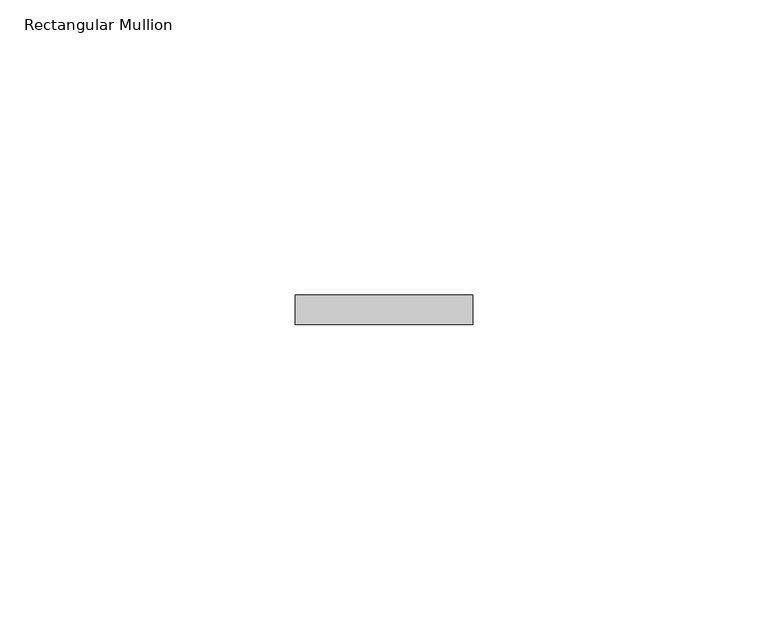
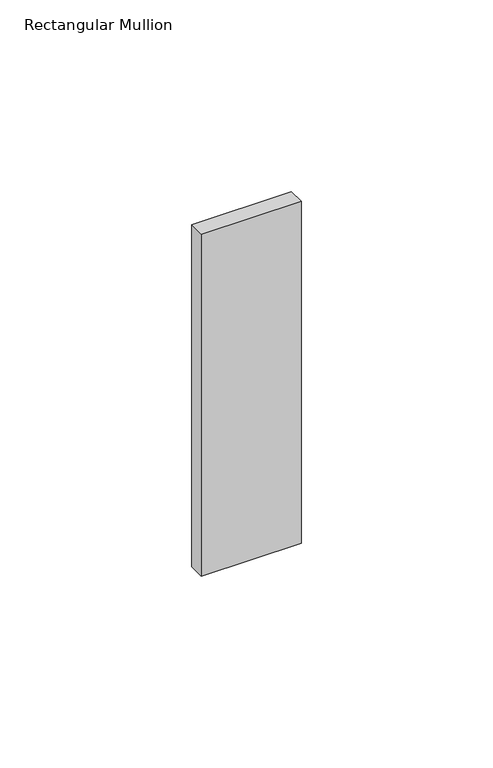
"""IFC4 building model written with IfcOpenShell, lengths in millimetres: member geometry, Rectangular Mullion : MT HRZ GRADIL 01."""

import ifcopenshell
import ifcopenshell.guid

model = None  # the IFC model being written
_history = None  # IfcOwnerHistory: only IFC2X3 demands one
_inside = {}  # id of a spatial element -> (the spatial element, [elements in it])
_under = {}  # id of a project, library or spatial element -> (it, [spatial elements below it])
_declared = {}  # id of a project -> (the project, [libraries it declares])
_typed = {}  # id of a type object -> (the type object, [elements of that type])
_made_of = {}  # id of a material, layer set ... -> (it, [elements and type objects made of it])


def new_model(schema):
    """Start an empty IFC model of exactly this schema.

    Asked for "IFC4X3", IfcOpenShell would pick the latest addendum, in which some entities
    have other attributes; the version numbers below select the first issue.
    IFC2X3 requires an IfcOwnerHistory on every rooted entity: one is made here for all.
    """
    global model, _history
    if schema == "IFC4X3":
        model = ifcopenshell.file(schema_version=(4, 3, 0, 0))
    else:
        model = ifcopenshell.file(schema=schema)
    _inside.clear()
    _under.clear()
    _declared.clear()
    _typed.clear()
    _made_of.clear()
    _history = None
    if model.schema == "IFC2X3":
        org = make("IfcOrganization", Name="unknown")
        user = make(
            "IfcPersonAndOrganization",
            ThePerson=make("IfcPerson", FamilyName="unknown"),
            TheOrganization=org,
        )
        app = make(
            "IfcApplication",
            ApplicationDeveloper=org,
            Version="unknown",
            ApplicationFullName="unknown",
            ApplicationIdentifier="unknown",
        )
        _history = make(
            "IfcOwnerHistory",
            OwningUser=user,
            OwningApplication=app,
            ChangeAction="ADDED",
            CreationDate=0,
        )
    return model


def make(cls, **values):
    """One entity of the class cls with the attributes given. An attribute that is None is left unset."""
    return model.create_entity(
        cls, **{name: value for name, value in values.items() if value is not None}
    )


def rooted(cls, **values):
    """An entity with a GlobalId (a new one), such as an element, a storey or a relation."""
    return make(cls, GlobalId=ifcopenshell.guid.new(), OwnerHistory=_history, **values)


def si_unit(unit_type, name, prefix=None):
    """IfcSIUnit, for example si_unit("LENGTHUNIT", "METRE", prefix="MILLI")."""
    return make("IfcSIUnit", UnitType=unit_type, Prefix=prefix, Name=name)


def assignment(units):
    """IfcUnitAssignment: the units of a project."""
    return None if units is None else make("IfcUnitAssignment", Units=units)


def point(xyz):
    """IfcCartesianPoint."""
    return None if xyz is None else make("IfcCartesianPoint", Coordinates=xyz)


def direction(xyz):
    """IfcDirection."""
    return None if xyz is None else make("IfcDirection", DirectionRatios=xyz)


def frame(location, z_axis=None, x_axis=None):
    """IfcAxis2Placement3D, a coordinate frame: its origin and axes. An axis left out is left unset."""
    return make(
        "IfcAxis2Placement3D",
        Location=point(location),
        Axis=direction(z_axis),
        RefDirection=direction(x_axis),
    )


def origin():
    """The frame at (0, 0, 0) with its axes left unset."""
    return frame((0.0, 0.0, 0.0))


def place(relative_to, where):
    """IfcLocalPlacement: puts the frame where relative to a parent placement (None: the world)."""
    return make(
        "IfcLocalPlacement", PlacementRelTo=relative_to, RelativePlacement=where
    )


def context(
    kind, dimensions, precision=None, world=None, true_north=None, identifier=None
):
    """IfcGeometricRepresentationContext, for example the 3D "Model" context."""
    return make(
        "IfcGeometricRepresentationContext",
        ContextIdentifier=identifier,
        ContextType=kind,
        CoordinateSpaceDimension=dimensions,
        Precision=precision,
        WorldCoordinateSystem=world,
        TrueNorth=true_north,
    )


def project(units=None, contexts=None):
    """IfcProject with its units and contexts."""
    return rooted(
        "IfcProject",
        Name="project",
        RepresentationContexts=contexts,
        UnitsInContext=assignment(units),
    )


def spatial(cls, under=None, at=None, **own):
    """A site, building, storey or space (cls), placed at a placement, below another one or the project."""
    s = rooted(cls, ObjectPlacement=at, **own)
    if under is not None:
        _under.setdefault(under.id(), (under, []))[1].append(s)
    return s


def polyline(points):
    """IfcPolyline through the points."""
    return make("IfcPolyline", Points=[point(p) for p in points])


def outline(outer, holes=None, kind="AREA"):
    """IfcArbitraryClosedProfileDef: a profile drawn as a closed curve; with holes, ...WithVoids."""
    if holes is None:
        return make("IfcArbitraryClosedProfileDef", ProfileType=kind, OuterCurve=outer)
    return make(
        "IfcArbitraryProfileDefWithVoids",
        ProfileType=kind,
        OuterCurve=outer,
        InnerCurves=holes,
    )


def extrude(swept, where, along, depth):
    """IfcExtrudedAreaSolid: the profile swept, set in the frame where, extruded along a direction by depth."""
    return make(
        "IfcExtrudedAreaSolid",
        SweptArea=swept,
        Position=where,
        ExtrudedDirection=direction(along),
        Depth=depth,
    )


def shape(context_of_items, identifier, shape_type, items):
    """IfcShapeRepresentation: the items that make up one representation, for example the "Body"."""
    return make(
        "IfcShapeRepresentation",
        ContextOfItems=context_of_items,
        RepresentationIdentifier=identifier,
        RepresentationType=shape_type,
        Items=items,
    )


def source(mapping_origin, context_of_items, identifier, shape_type, items):
    """IfcRepresentationMap: a shape defined once, which mapped items show again and again."""
    return make(
        "IfcRepresentationMap",
        MappingOrigin=mapping_origin,
        MappedRepresentation=shape(context_of_items, identifier, shape_type, items),
    )


def transform(
    local_origin,
    x_axis=None,
    y_axis=None,
    z_axis=None,
    scale=None,
    scale2=None,
    scale3=None,
    uniform=True,
):
    """IfcCartesianTransformationOperator3D, or its non-uniform kind. x_axis, y_axis, z_axis: its Axis1, 2, 3."""
    if uniform:
        return make(
            "IfcCartesianTransformationOperator3D",
            Axis1=direction(x_axis),
            Axis2=direction(y_axis),
            LocalOrigin=point(local_origin),
            Scale=scale,
            Axis3=direction(z_axis),
        )
    return make(
        "IfcCartesianTransformationOperator3DnonUniform",
        Axis1=direction(x_axis),
        Axis2=direction(y_axis),
        LocalOrigin=point(local_origin),
        Scale=scale,
        Axis3=direction(z_axis),
        Scale2=scale2,
        Scale3=scale3,
    )


def mapped(mapping_source, mapping_target):
    """IfcMappedItem: shows the shape of a source again, moved by a transform."""
    return make(
        "IfcMappedItem", MappingSource=mapping_source, MappingTarget=mapping_target
    )


def made_of(thing, what):
    """Note that an element or type object is made of a material, layer set ...; save() writes the relation."""
    if what is not None:
        _made_of.setdefault(what.id(), (what, []))[1].append(thing)
    return thing


def element(
    cls,
    number,
    at=None,
    inside=None,
    cuts=None,
    type_object=None,
    material=None,
    context=None,
    identifier="Body",
    shape_type=None,
    held_by="IfcProductDefinitionShape",
    body=None,
    shapes=None,
    **own,
):
    """One element of the class cls, such as IfcWall. Its Tag is "e" and its number.

    at: its placement. inside: the storey or other place that contains it. cuts: it is an
    opening in that element (IfcRelVoidsElement). A single representation is given by context,
    identifier, shape_type and body (its items); several are given by shapes. held_by: the class
    of the entity that holds the representations. save() writes the other relations.
    """
    e = rooted(cls, Tag="e%d" % number, ObjectPlacement=at, **own)
    if body is not None:
        shapes = [shape(context, identifier, shape_type, body)]
    if shapes is not None:
        e.Representation = make(held_by, Representations=shapes)
    if inside is not None:
        _inside.setdefault(inside.id(), (inside, []))[1].append(e)
    if cuts is not None:
        rooted(
            "IfcRelVoidsElement", RelatingBuildingElement=cuts, RelatedOpeningElement=e
        )
    if type_object is not None:
        _typed.setdefault(type_object.id(), (type_object, []))[1].append(e)
    return made_of(e, material)


def aggregate(whole, parts):
    """IfcRelAggregates: a whole, such as a stair, and the parts it consists of."""
    return rooted("IfcRelAggregates", RelatingObject=whole, RelatedObjects=parts)


def save(model, path):
    """Write the relations noted so far, then the file.

    IfcRelAggregates (storeys below a building ...), IfcRelContainedInSpatialStructure (elements
    in a storey), IfcRelDefinesByType, IfcRelAssociatesMaterial and IfcRelDeclares: one each for
    every whole, place, type object, material and project.
    """
    for whole, parts in _under.values():
        aggregate(whole, parts)
    for where, things in _inside.values():
        rooted(
            "IfcRelContainedInSpatialStructure",
            RelatedElements=things,
            RelatingStructure=where,
        )
    for kind, things in _typed.values():
        rooted("IfcRelDefinesByType", RelatedObjects=things, RelatingType=kind)
    for what, things in _made_of.values():
        rooted("IfcRelAssociatesMaterial", RelatedObjects=things, RelatingMaterial=what)
    for by, libraries in _declared.values():
        rooted("IfcRelDeclares", RelatingContext=by, RelatedDefinitions=libraries)
    model.write(path)


def rectangular_mullion_8aaab3e9(model_context):
    return source(origin(), model_context, "Body", "SweptSolid", [
        extrude(outline(polyline([(15.0, 2.5), (15.0, -2.5), (-15.0, -2.5), (-15.0, 2.5), (15.0, 2.5)])), frame((0.0, 0.0, -108.7804878), z_axis=(0.0, 0.0, 1.0), x_axis=(1.0, 0.0, 0.0)), (0.0, 0.0, 1.0), 108.7804878),
    ])


if __name__ == "__main__":
    model = new_model("IFC4")
    model_context = context("Model", 3, world=origin())
    ifc_project = project(units=[si_unit("LENGTHUNIT", "METRE", prefix="MILLI")], contexts=[model_context])
    site = spatial("IfcSite", under=ifc_project)
    building = spatial("IfcBuilding", under=site)
    placement = place(None, origin())
    rectangular_mullion_shape = rectangular_mullion_8aaab3e9(model_context)
    element("IfcMember", 1, ObjectType="Rectangular Mullion : MT HRZ GRADIL 01", at=placement, inside=building, context=model_context, shape_type="MappedRepresentation", body=[
        mapped(rectangular_mullion_shape, transform((0.0, 0.0, 0.0), x_axis=(1.0, 0.0, 0.0), y_axis=(0.0, 1.0, 0.0), z_axis=(0.0, 0.0, 1.0))),
    ])
    save(model, "model.ifc")
